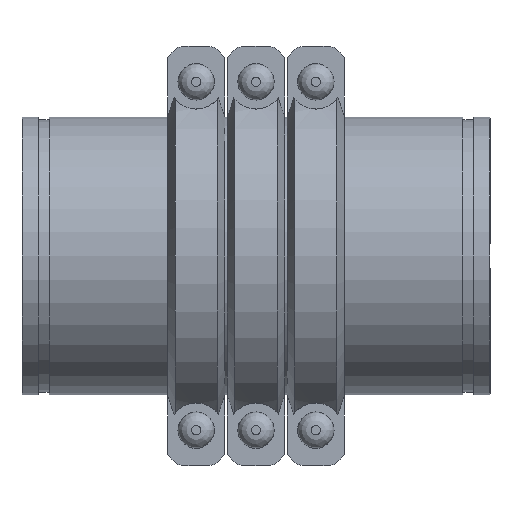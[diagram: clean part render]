
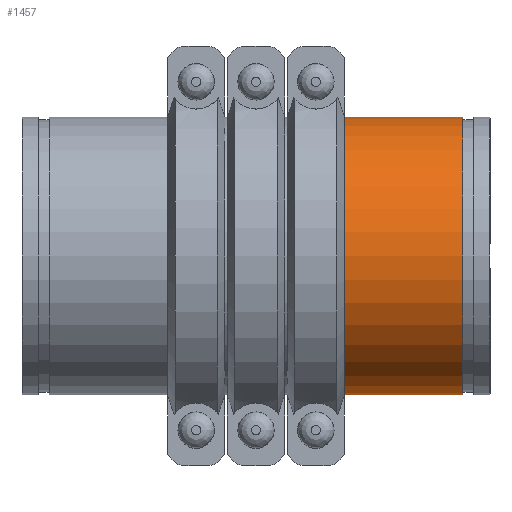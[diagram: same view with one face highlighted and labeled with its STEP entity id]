
A CAD part, front view. The second image highlights one B-rep face of the part: STEP entity #1457.
In plain terms, the highlighted cylindrical face has radius 161.925 mm (diameter 323.85 mm), a full revolution.
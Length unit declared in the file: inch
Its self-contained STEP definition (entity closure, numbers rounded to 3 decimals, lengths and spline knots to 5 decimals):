
#79=LINE('',#2303,#166);
#166=VECTOR('',#1862,6.375);
#253=CYLINDRICAL_SURFACE('',#1646,6.375);
#310=FACE_OUTER_BOUND('',#395,.T.);
#395=EDGE_LOOP('',(#956,#957,#958,#959,#960,#961));
#503=CIRCLE('',#1644,6.375);
#504=CIRCLE('',#1645,6.375);
#505=CIRCLE('',#1647,6.375);
#506=CIRCLE('',#1648,6.375);
#595=VERTEX_POINT('',#2294);
#596=VERTEX_POINT('',#2295);
#597=VERTEX_POINT('',#2299);
#598=VERTEX_POINT('',#2300);
#740=EDGE_CURVE('',#595,#596,#503,.T.);
#741=EDGE_CURVE('',#596,#595,#504,.T.);
#742=EDGE_CURVE('',#597,#598,#505,.T.);
#743=EDGE_CURVE('',#598,#597,#506,.T.);
#744=EDGE_CURVE('',#598,#596,#79,.T.);
#956=ORIENTED_EDGE('',*,*,#742,.F.);
#957=ORIENTED_EDGE('',*,*,#743,.F.);
#958=ORIENTED_EDGE('',*,*,#744,.T.);
#959=ORIENTED_EDGE('',*,*,#741,.T.);
#960=ORIENTED_EDGE('',*,*,#740,.T.);
#961=ORIENTED_EDGE('',*,*,#744,.F.);
#1457=ADVANCED_FACE('',(#310),#253,.T.);
#1644=AXIS2_PLACEMENT_3D('',#2296,#1852,#1853);
#1645=AXIS2_PLACEMENT_3D('',#2297,#1854,#1855);
#1646=AXIS2_PLACEMENT_3D('',#2298,#1856,#1857);
#1647=AXIS2_PLACEMENT_3D('',#2301,#1858,#1859);
#1648=AXIS2_PLACEMENT_3D('',#2302,#1860,#1861);
#1852=DIRECTION('center_axis',(-1.,0.,0.));
#1853=DIRECTION('ref_axis',(0.,0.,1.));
#1854=DIRECTION('center_axis',(-1.,0.,0.));
#1855=DIRECTION('ref_axis',(0.,0.,1.));
#1856=DIRECTION('center_axis',(-1.,0.,0.));
#1857=DIRECTION('ref_axis',(0.,1.,0.));
#1858=DIRECTION('center_axis',(-1.,0.,0.));
#1859=DIRECTION('ref_axis',(0.,0.,1.));
#1860=DIRECTION('center_axis',(-1.,0.,0.));
#1861=DIRECTION('ref_axis',(0.,0.,1.));
#1862=DIRECTION('',(1.,0.,0.));
#2294=CARTESIAN_POINT('',(2.75,6.375,0.));
#2295=CARTESIAN_POINT('',(2.75,-6.375,0.));
#2296=CARTESIAN_POINT('Origin',(2.75,0.,0.));
#2297=CARTESIAN_POINT('Origin',(2.75,0.,0.));
#2298=CARTESIAN_POINT('Origin',(0.,0.,
0.));
#2299=CARTESIAN_POINT('',(-2.75,6.375,0.));
#2300=CARTESIAN_POINT('',(-2.75,-6.375,0.));
#2301=CARTESIAN_POINT('Origin',(-2.75,0.,0.));
#2302=CARTESIAN_POINT('Origin',(-2.75,0.,0.));
#2303=CARTESIAN_POINT('',(0.,-6.375,0.));
